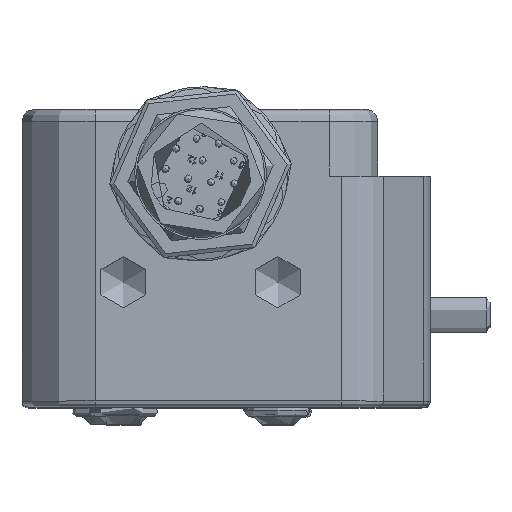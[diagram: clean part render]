
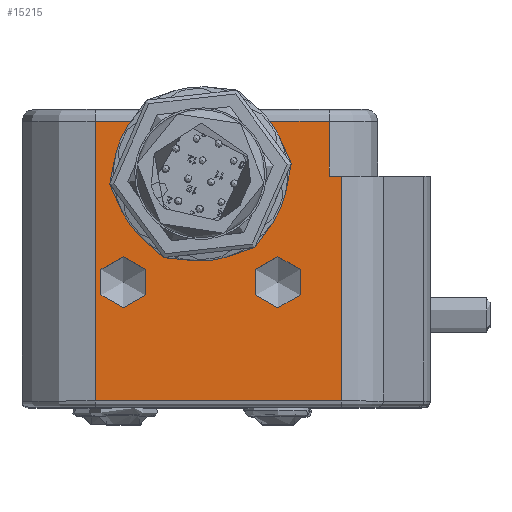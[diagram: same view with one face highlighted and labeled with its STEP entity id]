
A CAD part, top view. The second image highlights one B-rep face of the part: STEP entity #15215.
In plain terms, the highlighted planar face has unit normal (0, 0, 1).
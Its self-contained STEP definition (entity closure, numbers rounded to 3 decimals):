
#759=FACE_BOUND('',#2438,.T.);
#760=FACE_BOUND('',#2439,.T.);
#761=FACE_BOUND('',#2440,.T.);
#999=PLANE('',#16498);
#1540=FACE_OUTER_BOUND('',#2437,.T.);
#2437=EDGE_LOOP('',(#11390,#11391,#11392,#11393,#11394,#11395));
#2438=EDGE_LOOP('',(#11396,#11397));
#2439=EDGE_LOOP('',(#11398,#11399));
#2440=EDGE_LOOP('',(#11400,#11401));
#3392=LINE('',#23362,#4419);
#3394=LINE('',#23367,#4421);
#3405=LINE('',#23399,#4432);
#3481=LINE('',#24467,#4508);
#3499=LINE('',#24527,#4526);
#3500=LINE('',#24529,#4527);
#4419=VECTOR('',#18869,10.);
#4421=VECTOR('',#18875,10.);
#4432=VECTOR('',#18904,10.);
#4508=VECTOR('',#19248,10.);
#4526=VECTOR('',#19318,10.);
#4527=VECTOR('',#19321,10.);
#5412=CIRCLE('',#16426,2.1);
#5413=CIRCLE('',#16427,2.1);
#5416=CIRCLE('',#16432,2.1);
#5417=CIRCLE('',#16433,2.1);
#5455=CIRCLE('',#16499,4.4);
#5456=CIRCLE('',#16500,4.4);
#6311=VERTEX_POINT('',#23297);
#6330=VERTEX_POINT('',#23357);
#6331=VERTEX_POINT('',#23366);
#6343=VERTEX_POINT('',#23398);
#6431=VERTEX_POINT('',#24166);
#6432=VERTEX_POINT('',#24167);
#6439=VERTEX_POINT('',#24282);
#6440=VERTEX_POINT('',#24283);
#6466=VERTEX_POINT('',#24459);
#6468=VERTEX_POINT('',#24465);
#6485=VERTEX_POINT('',#24530);
#6486=VERTEX_POINT('',#24531);
#8047=EDGE_CURVE('',#6311,#6330,#3392,.T.);
#8049=EDGE_CURVE('',#6330,#6331,#3394,.T.);
#8065=EDGE_CURVE('',#6343,#6331,#3405,.T.);
#8188=EDGE_CURVE('',#6431,#6432,#5412,.T.);
#8189=EDGE_CURVE('',#6432,#6431,#5413,.T.);
#8198=EDGE_CURVE('',#6439,#6440,#5416,.T.);
#8199=EDGE_CURVE('',#6440,#6439,#5417,.T.);
#8242=EDGE_CURVE('',#6468,#6466,#3481,.T.);
#8274=EDGE_CURVE('',#6343,#6468,#3499,.T.);
#8275=EDGE_CURVE('',#6466,#6311,#3500,.T.);
#8276=EDGE_CURVE('',#6485,#6486,#5455,.T.);
#8277=EDGE_CURVE('',#6486,#6485,#5456,.T.);
#11390=ORIENTED_EDGE('',*,*,#8275,.F.);
#11391=ORIENTED_EDGE('',*,*,#8242,.F.);
#11392=ORIENTED_EDGE('',*,*,#8274,.F.);
#11393=ORIENTED_EDGE('',*,*,#8065,.T.);
#11394=ORIENTED_EDGE('',*,*,#8049,.F.);
#11395=ORIENTED_EDGE('',*,*,#8047,.F.);
#11396=ORIENTED_EDGE('',*,*,#8188,.T.);
#11397=ORIENTED_EDGE('',*,*,#8189,.T.);
#11398=ORIENTED_EDGE('',*,*,#8198,.T.);
#11399=ORIENTED_EDGE('',*,*,#8199,.T.);
#11400=ORIENTED_EDGE('',*,*,#8276,.F.);
#11401=ORIENTED_EDGE('',*,*,#8277,.F.);
#15215=ADVANCED_FACE('',(#1540,#759,#760,#761),#999,.T.);
#16426=AXIS2_PLACEMENT_3D('',#24168,#19137,#19138);
#16427=AXIS2_PLACEMENT_3D('',#24169,#19139,#19140);
#16432=AXIS2_PLACEMENT_3D('',#24284,#19152,#19153);
#16433=AXIS2_PLACEMENT_3D('',#24285,#19154,#19155);
#16498=AXIS2_PLACEMENT_3D('',#24528,#19319,#19320);
#16499=AXIS2_PLACEMENT_3D('',#24532,#19322,#19323);
#16500=AXIS2_PLACEMENT_3D('',#24533,#19324,#19325);
#18869=DIRECTION('',(1.,0.,0.));
#18875=DIRECTION('',(0.,-1.,0.));
#18904=DIRECTION('',(-1.,0.,0.));
#19137=DIRECTION('center_axis',(0.,0.,
-1.));
#19138=DIRECTION('ref_axis',(0.,1.,0.));
#19139=DIRECTION('center_axis',(0.,0.,
-1.));
#19140=DIRECTION('ref_axis',(0.,1.,0.));
#19152=DIRECTION('center_axis',(0.,0.,
-1.));
#19153=DIRECTION('ref_axis',(0.,1.,0.));
#19154=DIRECTION('center_axis',(0.,0.,
-1.));
#19155=DIRECTION('ref_axis',(0.,1.,0.));
#19248=DIRECTION('',(-1.,0.,0.));
#19318=DIRECTION('',(0.,-1.,0.));
#19319=DIRECTION('center_axis',(0.,0.,
1.));
#19320=DIRECTION('ref_axis',(0.,1.,0.));
#19321=DIRECTION('',(0.,1.,0.));
#19322=DIRECTION('center_axis',(0.,0.,
1.));
#19323=DIRECTION('ref_axis',(0.,-1.,0.));
#19324=DIRECTION('center_axis',(0.,0.,
1.));
#19325=DIRECTION('ref_axis',(0.,-1.,0.));
#23297=CARTESIAN_POINT('',(-13.05,28.6,26.));
#23357=CARTESIAN_POINT('',(6.15,28.6,26.));
#23362=CARTESIAN_POINT('',(-11.75,28.6,26.));
#23366=CARTESIAN_POINT('',(6.15,24.1,26.));
#23367=CARTESIAN_POINT('',(6.15,29.6,26.));
#23398=CARTESIAN_POINT('',(7.141,24.1,26.));
#23399=CARTESIAN_POINT('',(14.45,24.1,26.));
#24166=CARTESIAN_POINT('',(-10.75,17.5,26.));
#24167=CARTESIAN_POINT('',(-10.75,13.3,26.));
#24168=CARTESIAN_POINT('Origin',(-10.75,15.4,26.));
#24169=CARTESIAN_POINT('Origin',(-10.75,15.4,26.));
#24282=CARTESIAN_POINT('',(1.95,17.5,26.));
#24283=CARTESIAN_POINT('',(1.95,13.3,26.));
#24284=CARTESIAN_POINT('Origin',(1.95,15.4,26.));
#24285=CARTESIAN_POINT('Origin',(1.95,15.4,26.));
#24459=CARTESIAN_POINT('',(-13.05,5.65,26.));
#24465=CARTESIAN_POINT('',(7.141,5.65,26.));
#24467=CARTESIAN_POINT('',(-10.675,5.65,26.));
#24527=CARTESIAN_POINT('',(7.141,24.1,26.));
#24528=CARTESIAN_POINT('Origin',(-19.05,24.1,26.));
#24529=CARTESIAN_POINT('',(-13.05,24.1,26.));
#24530=CARTESIAN_POINT('',(-8.8,24.1,26.));
#24531=CARTESIAN_POINT('',(-4.4,28.5,26.));
#24532=CARTESIAN_POINT('Origin',(-4.4,24.1,26.));
#24533=CARTESIAN_POINT('Origin',(-4.4,24.1,26.));
